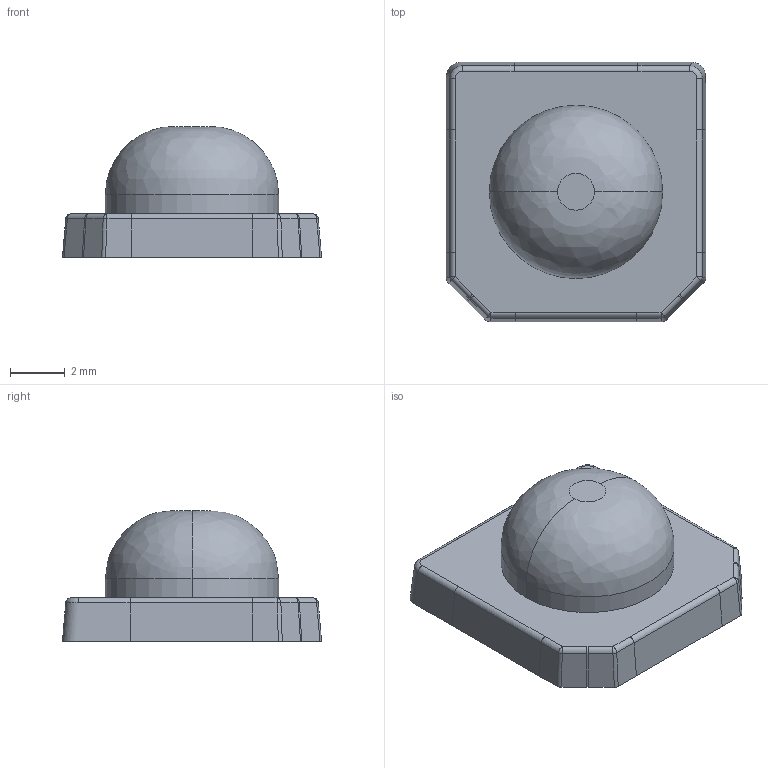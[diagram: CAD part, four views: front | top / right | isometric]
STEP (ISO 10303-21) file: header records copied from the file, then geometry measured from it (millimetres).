
FILE_DESCRIPTION(/* description */ (''),/* implementation_level */ '2;1');
FILE_NAME(/* name */ '240701_AL-30M-033(RefarenceModel)',/* time_stamp */ '2024-07-01T12:15:17+09:00',/* author */ (''),/* organization */ (''),/* preprocessor_version */ 'ST-DEVELOPER v19.2',/* originating_system */ 'Rhino 8.4',/* authorisation */ '');
FILE_SCHEMA (('AP242_MANAGED_MODEL_BASED_3D_ENGINEERING_MIM_LF { 1 0 10303 442 3 1 4 }'));
Length unit declared in the file: millimetre
Products named in the file (1): Document
Bounding box: 9.5 x 9.5 x 4.8 mm (x, y, z)
Volume: 162.2 mm3; surface area: 295.3 mm2
Topology: 1 solids, 1 shells, 57 faces, 130 edges, 77 vertices
Faces by surface type: cylinder 24, plane 19, bspline 14
Entity records: 2131 total; most frequent: CARTESIAN_POINT 1127, ORIENTED_EDGE 260, EDGE_CURVE 130, DIRECTION 123, AXIS2_PLACEMENT_3D 83, VERTEX_POINT 77, EDGE_LOOP 59, ADVANCED_FACE 57
